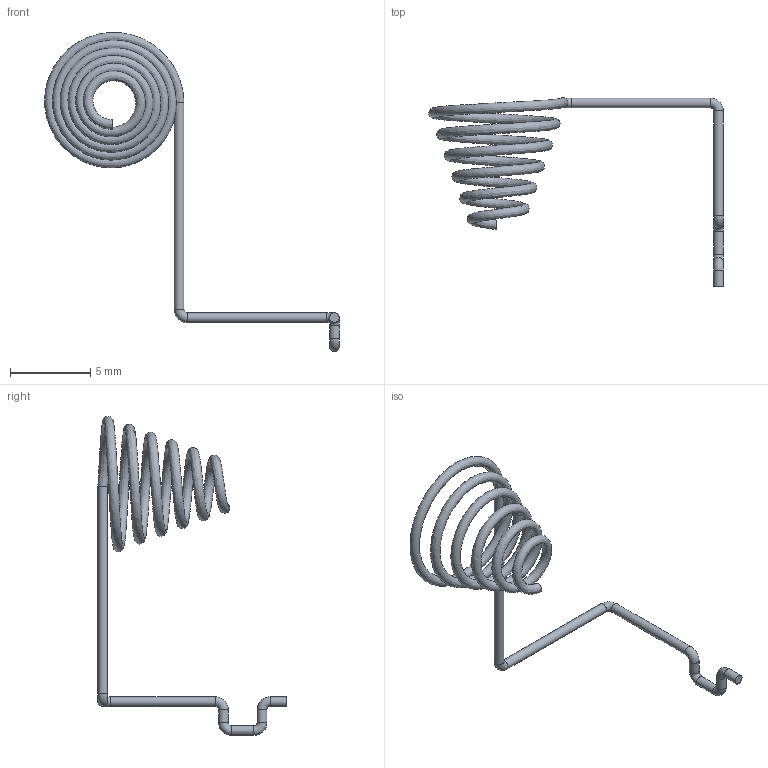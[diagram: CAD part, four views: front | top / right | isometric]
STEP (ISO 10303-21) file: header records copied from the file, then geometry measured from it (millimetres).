
FILE_DESCRIPTION(/* description */ (''),/* implementation_level */ '2;1');
FILE_NAME(/* name */ 'C:/Users/RileyStevenson/RileyS/Battery Coils/Negative Coil v11.step',/* time_stamp */ '2022-02-17T23:18:33-06:00',/* author */ (''),/* organization */ (''),/* preprocessor_version */ 'ST-DEVELOPER v18.1',/* originating_system */ 'Autodesk Translation Framework v10.13.0.1454',/* authorisation */ '');
FILE_SCHEMA (('AUTOMOTIVE_DESIGN { 1 0 10303 214 3 1 1 }'));
Length unit declared in the file: millimetre
Products named in the file (1): Negative Coil
Bounding box: 18.3 x 11.7 x 19.82 mm (x, y, z)
Volume: 38.6 mm3; surface area: 258.6 mm2
Topology: 1 solids, 1 shells, 16 faces, 41 edges, 27 vertices
Faces by surface type: cylinder 7, torus 6, plane 2, bspline 1
Full cylindrical faces by diameter (mm): 0.6 x7
Entity records: 1148 total; most frequent: CARTESIAN_POINT 695, DIRECTION 105, ORIENTED_EDGE 82, AXIS2_PLACEMENT_3D 49, EDGE_CURVE 41, CIRCLE 33, VERTEX_POINT 27, FACE_OUTER_BOUND 16
